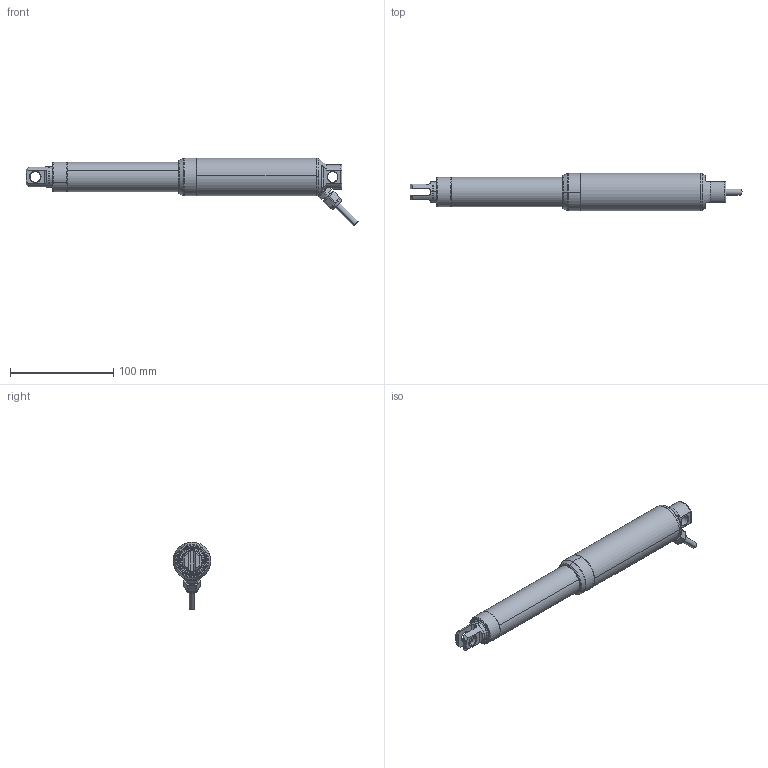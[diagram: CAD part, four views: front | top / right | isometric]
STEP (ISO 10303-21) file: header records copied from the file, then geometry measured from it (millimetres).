
FILE_DESCRIPTION (( 'STEP AP203' ), '1' );
FILE_NAME ('LD12-100-U.STEP', '2017-03-15T09:35:16', ( '' ), ( '' ), 'SwSTEP 2.0', 'SolidWorks 2014', '' );
FILE_SCHEMA (( 'CONFIG_CONTROL_DESIGN' ));
Length unit declared in the file: millimetre
Products named in the file (3): LD12-100-U; LD12-100body; U tube 100
Assembly tree (2 placements, depth 2):
  LD12-100-U
    LD12-100body
    U tube 100
Bounding box: 320.81 x 36.2 x 65.32 mm (x, y, z)
Surface area: 52745.3 mm2 (no closed solid volume)
Topology: 0 solids, 17 shells, 177 faces, 443 edges, 283 vertices
Faces by surface type: cylinder 70, plane 43, cone 33, torus 31
Entity records: 5910 total; most frequent: CARTESIAN_POINT 1267, DIRECTION 1020, ORIENTED_EDGE 807, EDGE_CURVE 443, AXIS2_PLACEMENT_3D 432, VERTEX_POINT 283, CIRCLE 250, EDGE_LOOP 199
